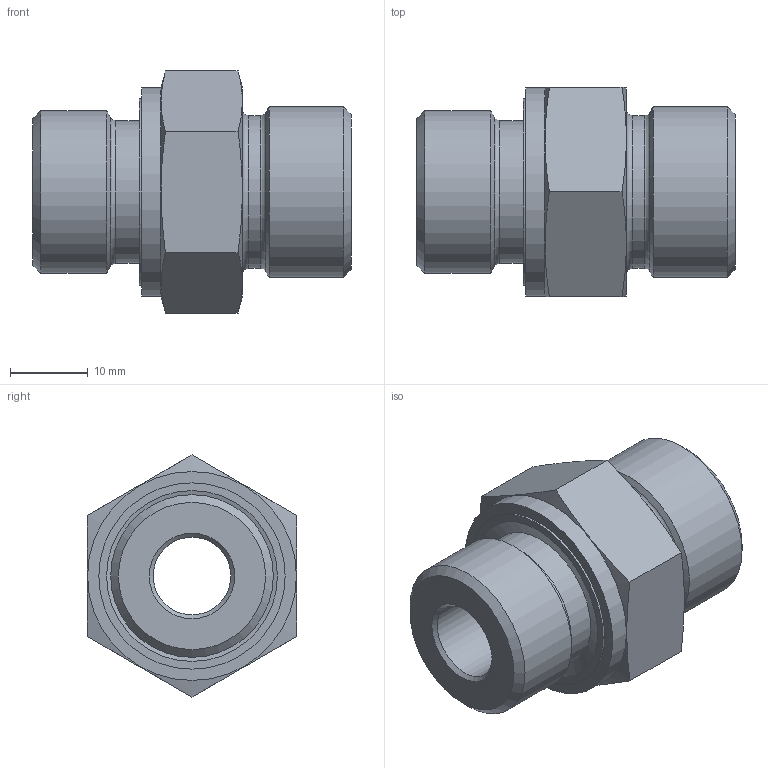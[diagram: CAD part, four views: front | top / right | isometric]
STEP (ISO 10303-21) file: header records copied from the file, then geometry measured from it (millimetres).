
FILE_DESCRIPTION( ( 'Unknown' ), '1' );
FILE_NAME( 'C:/Users/p.nanko/Desktop/3D SR/XGE14SED04.stp', 'Unknown', ( 'Peter Nanko' ), ( 'Armaturen Arndt' ), 'PSStep 14.0', 'Solid Edge ST4', ' ' );
FILE_SCHEMA( ( 'AUTOMOTIVE_DESIGN { 1 0 10303 214 1 1 1 1 }' ) );
Length unit declared in the file: millimetre
Products named in the file (3): Assem1; ED04; XGE14SED043
Assembly tree (2 placements, depth 2):
  Assem1
    ED04
    XGE14SED043
Bounding box: 41 x 27 x 31.18 mm (x, y, z)
Volume: 13622.9 mm3; surface area: 6271.1 mm2
Topology: 2 solids, 2 shells, 37 faces, 74 edges, 45 vertices
Faces by surface type: plane 14, cylinder 10, cone 9, torus 4
Full cylindrical faces by diameter (mm): 10 x1, 14 x1, 18.4 x2, 19.7 x1, 20.955 x1, 22 x1, 24 x2, 26.9 x1
Entity records: 1246 total; most frequent: CARTESIAN_POINT 230, DIRECTION 146, ORIENTED_EDGE 96, AXIS2_PLACEMENT_3D 70, EDGE_LOOP 68, FACE_OUTER_BOUND 51, EDGE_CURVE 48, VERTEX_POINT 42
